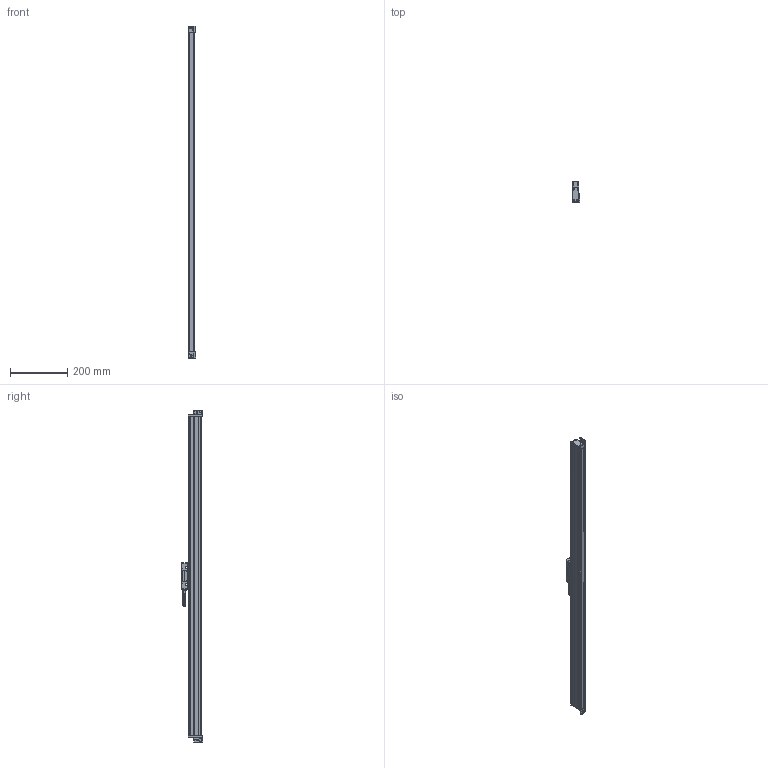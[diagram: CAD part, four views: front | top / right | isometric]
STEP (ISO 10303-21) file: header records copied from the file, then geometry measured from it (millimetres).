
FILE_DESCRIPTION (( 'STEP AP214' ), '1' );
FILE_NAME ('MLC310x1000.STEP', '2021-05-08T11:52:39', ( '' ), ( '' ), 'SwSTEP 2.0', 'SolidWorks 2014', '' );
FILE_SCHEMA (( 'AUTOMOTIVE_DESIGN' ));
Length unit declared in the file: millimetre
Products named in the file (1): MLC310x1000
Bounding box: 27 x 75.15 x 1164 mm (x, y, z)
Surface area: 204418.9 mm2 (no closed solid volume)
Topology: 0 solids, 19 shells, 386 faces, 1311 edges, 935 vertices
Faces by surface type: plane 156, cylinder 136, cone 67, bspline 19, torus 8
Entity records: 27899 total; most frequent: CARTESIAN_POINT 12582, DIRECTION 2280, ORIENTED_EDGE 2034, EDGE_CURVE 1309, VERTEX_POINT 935, AXIS2_PLACEMENT_3D 792, LINE 696, VECTOR 696
